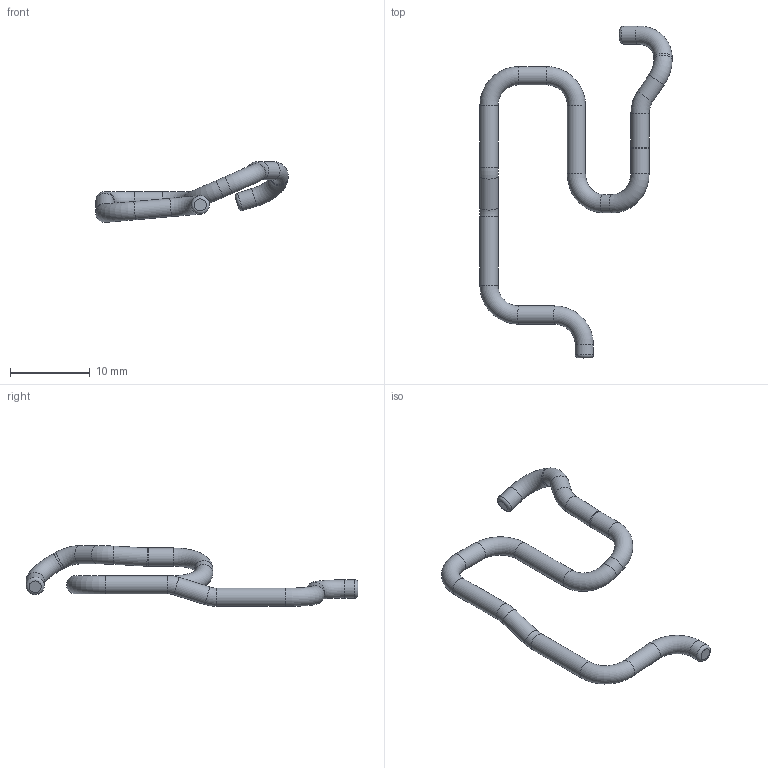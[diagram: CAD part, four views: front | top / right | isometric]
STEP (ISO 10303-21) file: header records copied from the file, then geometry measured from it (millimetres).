
FILE_DESCRIPTION(('Open CASCADE Model'),'2;1');
FILE_NAME('CUT_FACTORY_BATTERY_LEAD_1_INWARD_CLEARANCE_0p4_FINAL', '2026-09-15T14:48:48',('Author'),('Open CASCADE'), 'Open CASCADE STEP processor 7.9','build123d','Unknown');
FILE_SCHEMA(('AUTOMOTIVE_DESIGN { 1 0 10303 214 1 1 1 1 }'));
Length unit declared in the file: millimetre
Products named in the file (1): CUT_FACTORY_BATTERY_LEAD_1_INWARD_CLEARANCE_0p4_FINAL
Bounding box: 24.2 x 41.75 x 7.65 mm (x, y, z)
Volume: 418.3 mm3; surface area: 734 mm2
Topology: 1 solids, 1 shells, 29 faces, 55 edges, 28 vertices
Faces by surface type: torus 14, cylinder 13, plane 2
Full cylindrical faces by diameter (mm): 2.3 x13
Entity records: 1448 total; most frequent: DIRECTION 267, CARTESIAN_POINT 223, LINE 121, VECTOR 121, ORIENTED_EDGE 110, PCURVE 110, DEFINITIONAL_REPRESENTATION 110, AXIS2_PLACEMENT_3D 72
